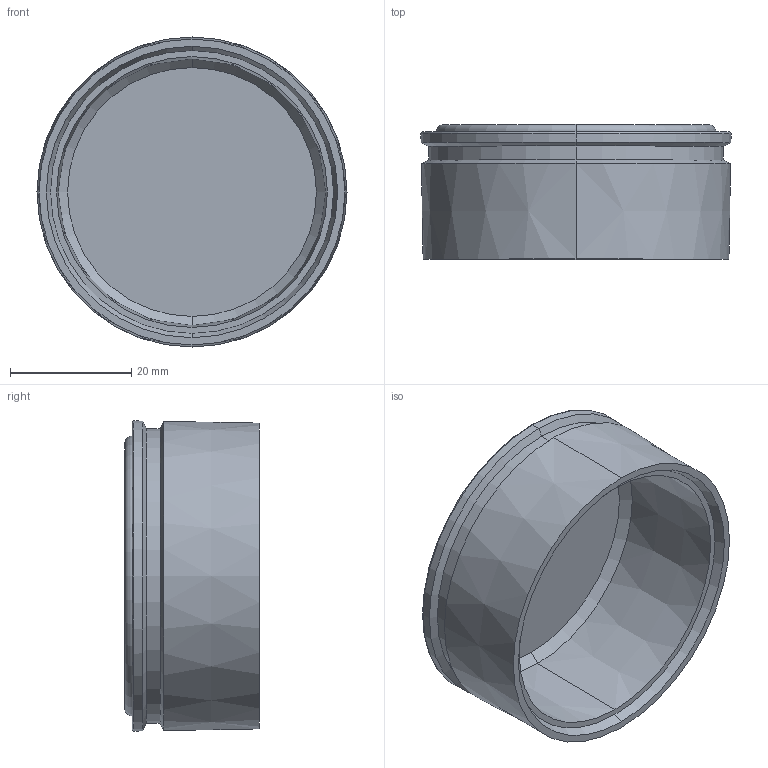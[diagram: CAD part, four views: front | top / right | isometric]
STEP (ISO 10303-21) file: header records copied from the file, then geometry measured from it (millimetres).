
FILE_DESCRIPTION (( 'STEP AP203' ), '1' );
FILE_NAME ('plc-pg-48-00.00.004 Óïëîòíèòåëü (PG48) #sealant (PG48)#.STEP', '2024-04-24T11:24:47', ( '' ), ( '' ), 'SwSTEP 2.0', 'SolidWorks 2021', '' );
FILE_SCHEMA (( 'CONFIG_CONTROL_DESIGN' ));
Length unit declared in the file: millimetre
Products named in the file (1): plc-pg-48-00.00.004 Óïëîòíèòåëü (PG48) #sealant (PG48)#
Bounding box: 51.19 x 22.2 x 51.19 mm (x, y, z)
Volume: 11390.5 mm3; surface area: 10408.5 mm2
Topology: 1 solids, 1 shells, 25 faces, 48 edges, 28 vertices
Faces by surface type: cone 14, plane 5, torus 4, cylinder 2
Entity records: 715 total; most frequent: DIRECTION 132, CARTESIAN_POINT 102, ORIENTED_EDGE 96, AXIS2_PLACEMENT_3D 58, EDGE_CURVE 48, CIRCLE 32, VERTEX_POINT 28, EDGE_LOOP 28
